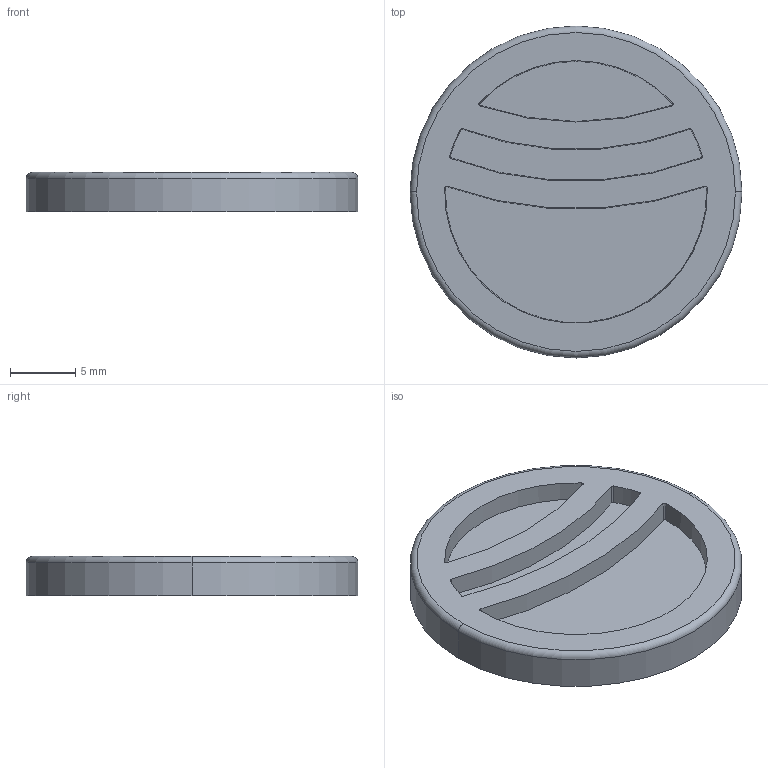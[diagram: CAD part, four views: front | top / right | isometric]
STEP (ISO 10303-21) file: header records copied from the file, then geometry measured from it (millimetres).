
FILE_DESCRIPTION((''),'2;1');
FILE_NAME('RANK2','2015-05-15T',('Daniel'),(''),'PRO/ENGINEER BY PARAMETRIC TECHNOLOGY CORPORATION, 2014000','PRO/ENGINEER BY PARAMETRIC TECHNOLOGY CORPORATION, 2014000','');
FILE_SCHEMA(('CONFIG_CONTROL_DESIGN'));
Length unit declared in the file: millimetre
Products named in the file (1): RANK2
Bounding box: 25.4 x 25.4 x 3 mm (x, y, z)
Volume: 1160.5 mm3; surface area: 1419.5 mm2
Topology: 1 solids, 1 shells, 25 faces, 58 edges, 38 vertices
Faces by surface type: cone 16, plane 5, torus 2, cylinder 2
Entity records: 774 total; most frequent: DIRECTION 148, CARTESIAN_POINT 121, ORIENTED_EDGE 116, AXIS2_PLACEMENT_3D 65, EDGE_CURVE 58, CIRCLE 40, VERTEX_POINT 38, EDGE_LOOP 28
